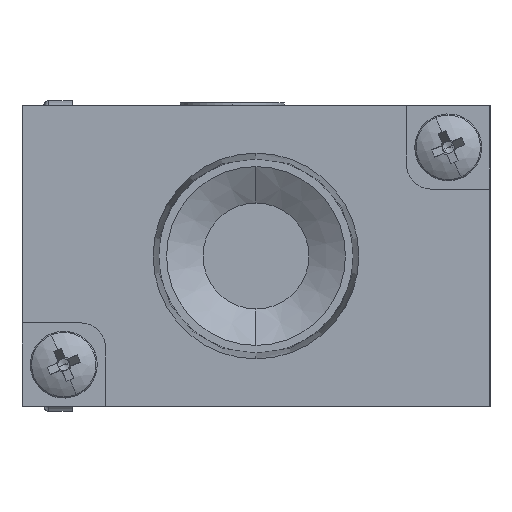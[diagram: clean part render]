
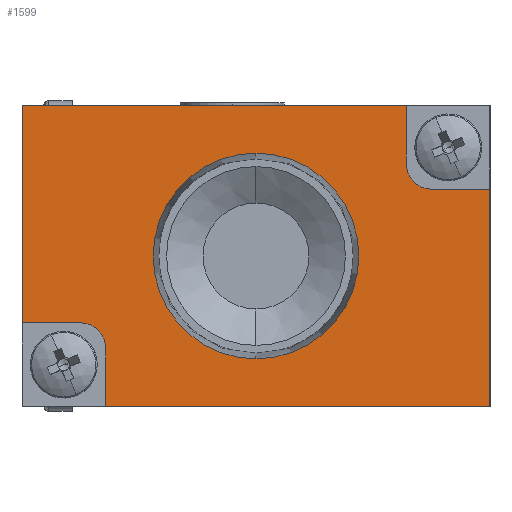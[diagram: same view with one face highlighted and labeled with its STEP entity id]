
A CAD part, left-side view. The second image highlights one B-rep face of the part: STEP entity #1599.
In plain terms, the highlighted planar face has unit normal (-1, 0, 0) as drawn and (1, 0, 0) by its records, which use the part's own axes.
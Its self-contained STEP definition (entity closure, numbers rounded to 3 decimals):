
#144 = VERTEX_POINT ( 'NONE', #2238 ) ;
#174 = EDGE_CURVE ( 'NONE', #3638, #144, #6825, .T. ) ;
#209 = VERTEX_POINT ( 'NONE', #5511 ) ;
#220 = EDGE_LOOP ( 'NONE', ( #3475, #351, #7105, #2660, #1113, #4439, #6436, #7460, #6408, #3370 ) ) ;
#227 = VERTEX_POINT ( 'NONE', #7496 ) ;
#267 = CIRCLE ( 'NONE', #2167, 6.154 ) ;
#351 = ORIENTED_EDGE ( 'NONE', *, *, #174, .F. ) ;
#393 = CARTESIAN_POINT ( 'NONE',  ( 19., 0., -6.154 ) ) ;
#589 = DIRECTION ( 'NONE',  ( -1., 0., 0. ) ) ;
#781 = CIRCLE ( 'NONE', #3251, 6.154 ) ;
#972 = VERTEX_POINT ( 'NONE', #3232 ) ;
#998 = CARTESIAN_POINT ( 'NONE',  ( 19., 0., 0. ) ) ;
#1113 = ORIENTED_EDGE ( 'NONE', *, *, #7191, .T. ) ;
#1120 = CARTESIAN_POINT ( 'NONE',  ( 19., 0., 0. ) ) ;
#1178 = CARTESIAN_POINT ( 'NONE',  ( 19., 0., 0. ) ) ;
#1221 = AXIS2_PLACEMENT_3D ( 'NONE', #1178, #6507, #2482 ) ;
#1247 = CARTESIAN_POINT ( 'NONE',  ( 19., 14., 9. ) ) ;
#1319 = FACE_OUTER_BOUND ( 'NONE', #220, .T. ) ;
#1599 = ADVANCED_FACE ( 'NONE', ( #4524, #1319 ), #7182, .F. ) ;
#1620 = VERTEX_POINT ( 'NONE', #7739 ) ;
#1701 = EDGE_CURVE ( 'NONE', #4033, #8295, #5140, .T. ) ;
#1721 = LINE ( 'NONE', #1247, #1921 ) ;
#1891 = VERTEX_POINT ( 'NONE', #6068 ) ;
#1921 = VECTOR ( 'NONE', #4544, 1000. ) ;
#1979 = DIRECTION ( 'NONE',  ( 0., 0., 1. ) ) ;
#2167 = AXIS2_PLACEMENT_3D ( 'NONE', #998, #4329, #5635 ) ;
#2238 = CARTESIAN_POINT ( 'NONE',  ( 19., -14., -4. ) ) ;
#2482 = DIRECTION ( 'NONE',  ( 0., 0., 1. ) ) ;
#2591 = DIRECTION ( 'NONE',  ( 0., -1., 0. ) ) ;
#2647 = LINE ( 'NONE', #4115, #8201 ) ;
#2660 = ORIENTED_EDGE ( 'NONE', *, *, #2854, .F. ) ;
#2734 = DIRECTION ( 'NONE',  ( 0., 0., 1. ) ) ;
#2757 = DIRECTION ( 'NONE',  ( 0., 0., -1. ) ) ;
#2806 = CARTESIAN_POINT ( 'NONE',  ( 19., 14., 4. ) ) ;
#2854 = EDGE_CURVE ( 'NONE', #209, #7960, #3261, .T. ) ;
#2874 = VECTOR ( 'NONE', #5483, 1000. ) ;
#2884 = DIRECTION ( 'NONE',  ( 0., 1., 0. ) ) ;
#2912 = EDGE_CURVE ( 'NONE', #5070, #6129, #267, .T. ) ;
#3232 = CARTESIAN_POINT ( 'NONE',  ( 19., 14., -9. ) ) ;
#3251 = AXIS2_PLACEMENT_3D ( 'NONE', #1120, #5197, #3794 ) ;
#3257 = VECTOR ( 'NONE', #2884, 1000. ) ;
#3261 = LINE ( 'NONE', #4966, #7632 ) ;
#3347 = CIRCLE ( 'NONE', #4493, 1.5 ) ;
#3370 = ORIENTED_EDGE ( 'NONE', *, *, #1701, .T. ) ;
#3379 = CARTESIAN_POINT ( 'NONE',  ( 19., 0., 6.154 ) ) ;
#3475 = ORIENTED_EDGE ( 'NONE', *, *, #6653, .T. ) ;
#3584 = DIRECTION ( 'NONE',  ( 0., 0., -1. ) ) ;
#3638 = VERTEX_POINT ( 'NONE', #6463 ) ;
#3794 = DIRECTION ( 'NONE',  ( 0., 0., -1. ) ) ;
#4033 = VERTEX_POINT ( 'NONE', #4882 ) ;
#4093 = CARTESIAN_POINT ( 'NONE',  ( 19., -10.5, -5.5 ) ) ;
#4115 = CARTESIAN_POINT ( 'NONE',  ( 19., -14., 9. ) ) ;
#4329 = DIRECTION ( 'NONE',  ( 1., 0., 0. ) ) ;
#4439 = ORIENTED_EDGE ( 'NONE', *, *, #7270, .T. ) ;
#4472 = EDGE_CURVE ( 'NONE', #1620, #227, #7248, .T. ) ;
#4493 = AXIS2_PLACEMENT_3D ( 'NONE', #8502, #589, #1979 ) ;
#4524 = FACE_BOUND ( 'NONE', #4674, .T. ) ;
#4544 = DIRECTION ( 'NONE',  ( 0., 0., 1. ) ) ;
#4618 = CARTESIAN_POINT ( 'NONE',  ( 19., -14., 9. ) ) ;
#4639 = EDGE_CURVE ( 'NONE', #4033, #1891, #6604, .T. ) ;
#4674 = EDGE_LOOP ( 'NONE', ( #8187, #7140 ) ) ;
#4736 = DIRECTION ( 'NONE',  ( -1., 0., 0. ) ) ;
#4882 = CARTESIAN_POINT ( 'NONE',  ( 19., 9., 9. ) ) ;
#4890 = DIRECTION ( 'NONE',  ( 0., 1., 0. ) ) ;
#4899 = CARTESIAN_POINT ( 'NONE',  ( 19., -14., -4. ) ) ;
#4966 = CARTESIAN_POINT ( 'NONE',  ( 19., -9., -9. ) ) ;
#5070 = VERTEX_POINT ( 'NONE', #3379 ) ;
#5089 = EDGE_CURVE ( 'NONE', #3638, #7960, #7854, .T. ) ;
#5140 = LINE ( 'NONE', #4618, #5552 ) ;
#5197 = DIRECTION ( 'NONE',  ( 1., 0., 0. ) ) ;
#5410 = EDGE_CURVE ( 'NONE', #6129, #5070, #781, .T. ) ;
#5483 = DIRECTION ( 'NONE',  ( 0., -1., 0. ) ) ;
#5511 = CARTESIAN_POINT ( 'NONE',  ( 19., -9., -9. ) ) ;
#5547 = CARTESIAN_POINT ( 'NONE',  ( 19., -14., -9. ) ) ;
#5552 = VECTOR ( 'NONE', #2591, 1000. ) ;
#5635 = DIRECTION ( 'NONE',  ( 0., 0., -1. ) ) ;
#5746 = CARTESIAN_POINT ( 'NONE',  ( 19., -14., 9. ) ) ;
#6068 = CARTESIAN_POINT ( 'NONE',  ( 19., 9., 5.5 ) ) ;
#6129 = VERTEX_POINT ( 'NONE', #393 ) ;
#6408 = ORIENTED_EDGE ( 'NONE', *, *, #4639, .F. ) ;
#6436 = ORIENTED_EDGE ( 'NONE', *, *, #4472, .F. ) ;
#6463 = CARTESIAN_POINT ( 'NONE',  ( 19., -10.5, -4. ) ) ;
#6507 = DIRECTION ( 'NONE',  ( -1., 0., 0. ) ) ;
#6604 = LINE ( 'NONE', #7011, #7448 ) ;
#6653 = EDGE_CURVE ( 'NONE', #8295, #144, #2647, .T. ) ;
#6723 = CARTESIAN_POINT ( 'NONE',  ( 19., -9., -5.5 ) ) ;
#6779 = LINE ( 'NONE', #5547, #3257 ) ;
#6825 = LINE ( 'NONE', #4899, #2874 ) ;
#6884 = DIRECTION ( 'NONE',  ( 0., 0., 1. ) ) ;
#7011 = CARTESIAN_POINT ( 'NONE',  ( 19., 9., 9. ) ) ;
#7105 = ORIENTED_EDGE ( 'NONE', *, *, #5089, .T. ) ;
#7140 = ORIENTED_EDGE ( 'NONE', *, *, #2912, .F. ) ;
#7182 = PLANE ( 'NONE',  #1221 ) ;
#7191 = EDGE_CURVE ( 'NONE', #209, #972, #6779, .T. ) ;
#7248 = LINE ( 'NONE', #2806, #8061 ) ;
#7257 = AXIS2_PLACEMENT_3D ( 'NONE', #4093, #4736, #2734 ) ;
#7270 = EDGE_CURVE ( 'NONE', #972, #227, #1721, .T. ) ;
#7448 = VECTOR ( 'NONE', #3584, 1000. ) ;
#7460 = ORIENTED_EDGE ( 'NONE', *, *, #8378, .T. ) ;
#7496 = CARTESIAN_POINT ( 'NONE',  ( 19., 14., 4. ) ) ;
#7632 = VECTOR ( 'NONE', #6884, 1000. ) ;
#7739 = CARTESIAN_POINT ( 'NONE',  ( 19., 10.5, 4. ) ) ;
#7854 = CIRCLE ( 'NONE', #7257, 1.5 ) ;
#7960 = VERTEX_POINT ( 'NONE', #6723 ) ;
#8061 = VECTOR ( 'NONE', #4890, 1000. ) ;
#8187 = ORIENTED_EDGE ( 'NONE', *, *, #5410, .F. ) ;
#8201 = VECTOR ( 'NONE', #2757, 1000. ) ;
#8295 = VERTEX_POINT ( 'NONE', #5746 ) ;
#8378 = EDGE_CURVE ( 'NONE', #1620, #1891, #3347, .T. ) ;
#8502 = CARTESIAN_POINT ( 'NONE',  ( 19., 10.5, 5.5 ) ) ;
